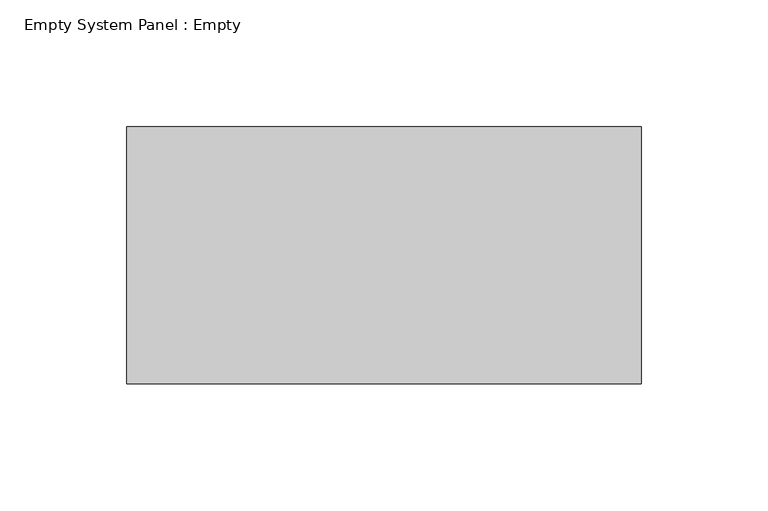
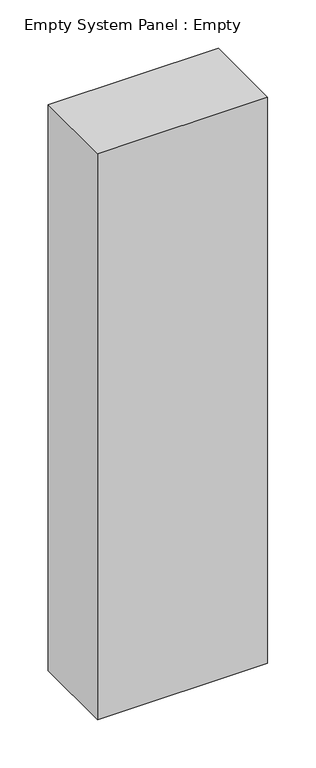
"""IFC4 building model written with IfcOpenShell, lengths in millimetres: plate geometry, Empty System Panel : Empty."""

from ifc_helpers import new_model, si_unit, origin, origin_with_axes, place, context, project, spatial, polyline, outline, extrude, source, transform, mapped, element, save


def empty_system_panel_empty_8237fad2(model_context):
    return source(origin(), model_context, "Body", "SweptSolid", [
        extrude(outline(polyline([(101.6, -50.8), (-101.6, -50.8), (-101.6, 50.8), (101.6, 50.8), (101.6, -50.8)])), origin_with_axes(), (0.0, 0.0, 1.0), 714.375),
    ])


if __name__ == "__main__":
    model = new_model("IFC4")
    model_context = context("Model", 3, world=origin())
    ifc_project = project(units=[si_unit("LENGTHUNIT", "METRE", prefix="MILLI")], contexts=[model_context])
    site = spatial("IfcSite", under=ifc_project)
    building = spatial("IfcBuilding", under=site)
    placement = place(None, origin())
    empty_system_panel_empty_shape = empty_system_panel_empty_8237fad2(model_context)
    element("IfcPlate", 1, ObjectType="Empty System Panel : Empty", at=placement, inside=building, context=model_context, shape_type="MappedRepresentation", body=[
        mapped(empty_system_panel_empty_shape, transform((0.0, 0.0, 0.0), x_axis=(1.0, 0.0, 0.0), y_axis=(0.0, 1.0, 0.0), z_axis=(0.0, 0.0, 1.0))),
    ])
    save(model, "model.ifc")
